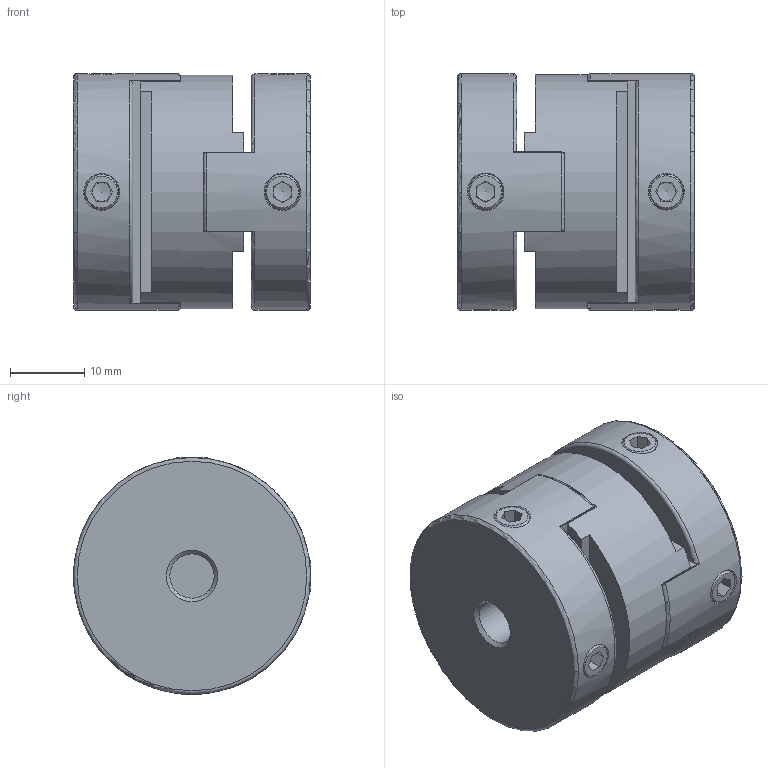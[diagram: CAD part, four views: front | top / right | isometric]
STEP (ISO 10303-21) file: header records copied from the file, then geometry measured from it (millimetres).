
FILE_DESCRIPTION( ( 'Unknown' ), '1' );
FILE_NAME( 'F:/JAKOB-STEP+IGES-Dateien/STEP-Dateien/MOH/MOH 32.stp', 'Unknown', ( 'Unknown' ), ( 'Unknown' ), 'PSStep 10.1', 'Unknown', ' ' );
FILE_SCHEMA( ( 'AUTOMOTIVE_DESIGN { 1 0 10303 214 1 1 1 1 }' ) );
Length unit declared in the file: millimetre
Products named in the file (1): KT100336-oa2
Bounding box: 32 x 32 x 32 mm (x, y, z)
Volume: 22488.8 mm3; surface area: 7640.2 mm2
Topology: 1 solids, 1 shells, 141 faces, 369 edges, 224 vertices
Faces by surface type: plane 86, cylinder 21, bspline 12, torus 12, cone 10
Full cylindrical faces by diameter (mm): 4.134 x4, 6 x2, 31.6 x1, 32 x2
Entity records: 6050 total; most frequent: CARTESIAN_POINT 1838, ORIENTED_EDGE 616, DIRECTION 600, EDGE_CURVE 308, AXIS2_PLACEMENT_3D 214, VERTEX_POINT 204, EDGE_LOOP 180, LINE 172
